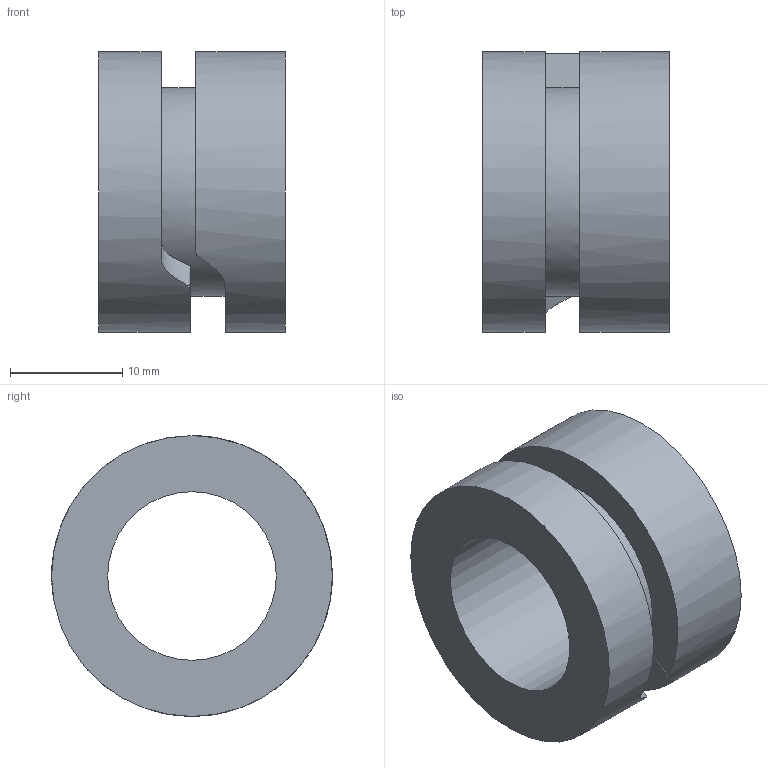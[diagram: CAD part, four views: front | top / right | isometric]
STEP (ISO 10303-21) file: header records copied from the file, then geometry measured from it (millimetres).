
FILE_DESCRIPTION(('Open CASCADE Model'),'2;1');
FILE_NAME('B3_R12_CAM_SEGMENT','2026-09-28T18:16:05',('Author'),( 'Open CASCADE'),'Open CASCADE STEP processor 7.9','build123d', 'Unknown');
FILE_SCHEMA(('AUTOMOTIVE_DESIGN { 1 0 10303 214 1 1 1 1 }'));
Length unit declared in the file: millimetre
Products named in the file (1): B3_R12_CAM_SEGMENT
Bounding box: 16.6 x 25 x 25 mm (x, y, z)
Volume: 4487.3 mm3; surface area: 3069.1 mm2
Topology: 1 solids, 1 shells, 9 faces, 21 edges, 14 vertices
Faces by surface type: plane 4, bspline 3, cylinder 2
Full cylindrical faces by diameter (mm): 15.02 x1, 25 x1
Entity records: 11182 total; most frequent: CARTESIAN_POINT 10781, DIRECTION 51, ORIENTED_EDGE 42, PCURVE 42, DEFINITIONAL_REPRESENTATION 42, B_SPLINE_CURVE_WITH_KNOTS 30, LINE 25, VECTOR 25
